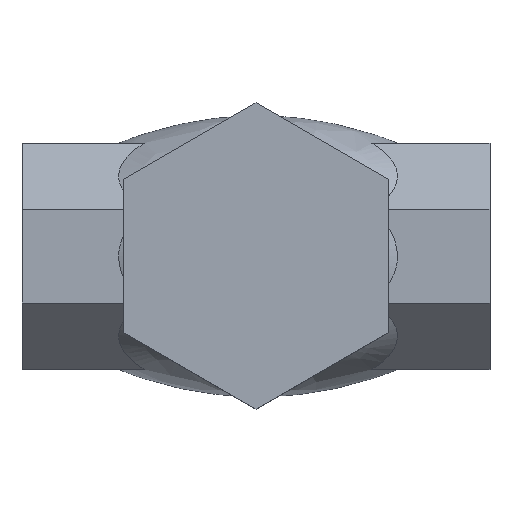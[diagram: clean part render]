
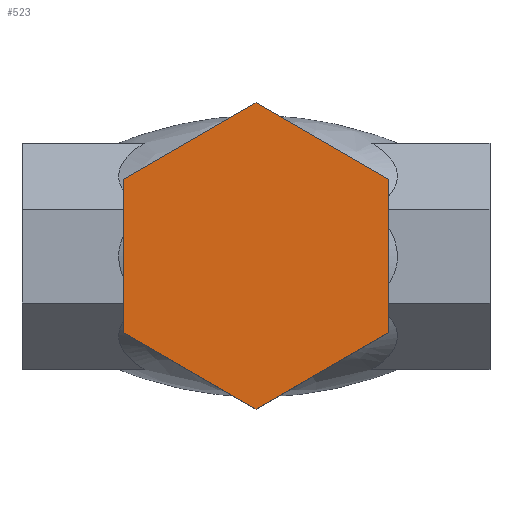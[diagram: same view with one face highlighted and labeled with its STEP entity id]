
A CAD part, top view. The second image highlights one B-rep face of the part: STEP entity #523.
In plain terms, the highlighted planar face has unit normal (0, 0, 1).
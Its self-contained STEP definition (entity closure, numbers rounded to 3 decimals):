
#47=FACE_OUTER_BOUND('',#75,.T.);
#75=EDGE_LOOP('',(#458,#459,#460,#461,#462,#463));
#111=LINE('',#1222,#162);
#115=LINE('',#1230,#166);
#118=LINE('',#1236,#169);
#121=LINE('',#1242,#172);
#124=LINE('',#1248,#175);
#127=LINE('',#1253,#178);
#162=VECTOR('',#644,10.);
#166=VECTOR('',#650,10.);
#169=VECTOR('',#655,10.);
#172=VECTOR('',#660,10.);
#175=VECTOR('',#665,10.);
#178=VECTOR('',#670,10.);
#237=VERTEX_POINT('',#1220);
#238=VERTEX_POINT('',#1221);
#241=VERTEX_POINT('',#1229);
#243=VERTEX_POINT('',#1235);
#245=VERTEX_POINT('',#1241);
#247=VERTEX_POINT('',#1247);
#305=EDGE_CURVE('',#237,#238,#111,.T.);
#309=EDGE_CURVE('',#238,#241,#115,.T.);
#312=EDGE_CURVE('',#241,#243,#118,.T.);
#315=EDGE_CURVE('',#243,#245,#121,.T.);
#318=EDGE_CURVE('',#245,#247,#124,.T.);
#321=EDGE_CURVE('',#247,#237,#127,.T.);
#458=ORIENTED_EDGE('',*,*,#321,.T.);
#459=ORIENTED_EDGE('',*,*,#305,.T.);
#460=ORIENTED_EDGE('',*,*,#309,.T.);
#461=ORIENTED_EDGE('',*,*,#312,.T.);
#462=ORIENTED_EDGE('',*,*,#315,.T.);
#463=ORIENTED_EDGE('',*,*,#318,.T.);
#495=PLANE('',#565);
#523=ADVANCED_FACE('',(#47),#495,.T.);
#565=AXIS2_PLACEMENT_3D('',#1255,#672,#673);
#644=DIRECTION('',(0.866,-0.5,0.));
#650=DIRECTION('',(0.866,0.5,0.));
#655=DIRECTION('',(0.,1.,0.));
#660=DIRECTION('',(-0.866,0.5,0.));
#665=DIRECTION('',(-0.866,-0.5,0.));
#670=DIRECTION('',(0.,-1.,0.));
#672=DIRECTION('center_axis',(0.,0.,1.));
#673=DIRECTION('ref_axis',(1.,0.,0.));
#1220=CARTESIAN_POINT('',(-34.,-19.63,65.5));
#1221=CARTESIAN_POINT('',(0.,-39.26,65.5));
#1222=CARTESIAN_POINT('',(-34.,-19.63,65.5));
#1229=CARTESIAN_POINT('',(34.,-19.63,65.5));
#1230=CARTESIAN_POINT('',(0.,-39.26,65.5));
#1235=CARTESIAN_POINT('',(34.,19.63,65.5));
#1236=CARTESIAN_POINT('',(34.,-19.63,65.5));
#1241=CARTESIAN_POINT('',(0.,39.26,65.5));
#1242=CARTESIAN_POINT('',(34.,19.63,65.5));
#1247=CARTESIAN_POINT('',(-34.,19.63,65.5));
#1248=CARTESIAN_POINT('',(0.,39.26,65.5));
#1253=CARTESIAN_POINT('',(-34.,19.63,65.5));
#1255=CARTESIAN_POINT('Origin',(0.,0.,
65.5));
